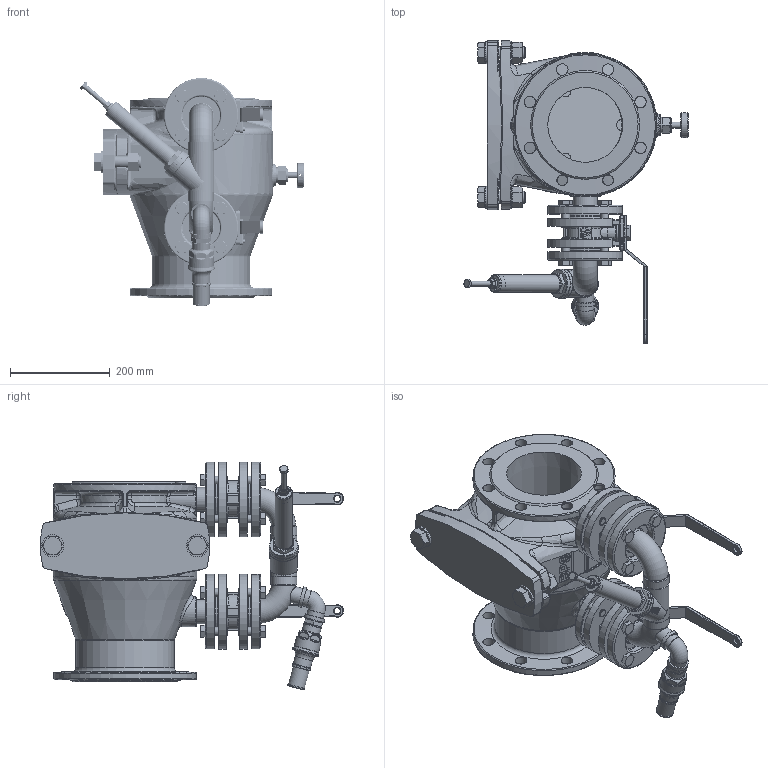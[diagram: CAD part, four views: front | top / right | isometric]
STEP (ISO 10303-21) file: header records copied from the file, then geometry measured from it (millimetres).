
FILE_DESCRIPTION((''),'2;1');
FILE_NAME('Z:\Kunder\BPS\BPS Produkter\BPS 6504\DN 150\6504150.iam.stp','2012-09-05T10:47:44',('Account'),(''),'Autodesk Inventor 2013','Autodesk Inventor 2013','');
FILE_SCHEMA(('AUTOMOTIVE_DESIGN { 1 0 10303 214 1 1 1 1 }'));
Length unit declared in the file: millimetre
Products named in the file (1): Part6
Bounding box: 449.11 x 607.25 x 456.89 mm (x, y, z)
Volume: 11085373.5 mm3; surface area: 1871881.3 mm2
Topology: 1 solids, 25 shells, 4583 faces, 11593 edges, 7352 vertices
Faces by surface type: plane 2201, bspline 934, cylinder 754, cone 370, torus 278, sphere 46
Full cylindrical faces by diameter (mm): 3.242 x1, 4 x4, 5 x1, 8 x3, 10 x5, 10.1 x1, 12 x5, 12.1 x2, 12.5 x2, 14.4 x1, 14.63 x1, 15 x1, 15.6 x2, 16 x35, 16.5 x1, 16.8 x1, 17.5 x16, 18.5 x2, 20 x1, 20.753 x2, 21 x4, 22 x2, 22.49 x16, 23 x15, 24 x9, 24.2 x1, 25 x3, 26.441 x1, 27 x1, 27.3 x2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
Entity records: 186077 total; most frequent: CARTESIAN_POINT 80108, ORIENTED_EDGE 22010, DIRECTION 19056, EDGE_CURVE 11015, AXIS2_PLACEMENT_3D 7254, VERTEX_POINT 7203, EDGE_LOOP 5482, FACE_OUTER_BOUND 4581
